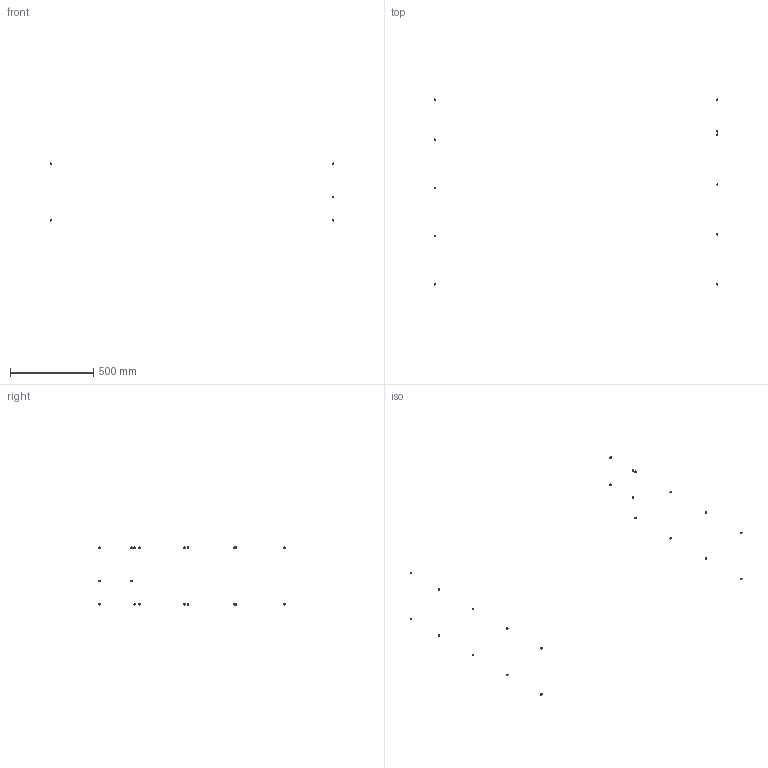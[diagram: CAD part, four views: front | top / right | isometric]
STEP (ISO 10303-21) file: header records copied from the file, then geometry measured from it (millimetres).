
FILE_DESCRIPTION(/* description */ (''),/* implementation_level */ '2;1');
FILE_NAME(/* name */ '14.frame-panels#14.3#BCB5-6',/* time_stamp */ '2014-12-01T20:20:08+01:00',/* author */ (''),/* organization */ (''),/* preprocessor_version */ 'ST-DEVELOPER v14',/* originating_system */ '',/* authorisation */ '');
FILE_SCHEMA (('AUTOMOTIVE_DESIGN'));
Length unit declared in the file: millimetre
Products named in the file (2): Document; screw ISO7380-like, button, M5x06
Assembly tree (11 placements, depth 2):
  Document
    screw ISO7380-like, button, M5x06  x11
Bounding box: 1707.5 x 1119.48 x 349.5 mm (x, y, z)
Volume: 5668 mm3; surface area: 6353.3 mm2
Topology: 22 solids, 22 shells, 550 faces, 1276 edges, 770 vertices
Faces by surface type: plane 330, bspline 220
Entity records: 18273 total; most frequent: CARTESIAN_POINT 9206, B_SPLINE_CURVE_WITH_KNOTS 1512, ORIENTED_EDGE 1344, PCURVE 1344, DEFINITIONAL_REPRESENTATION 1344, SURFACE_CURVE 672, EDGE_CURVE 672, VERTEX_POINT 420
